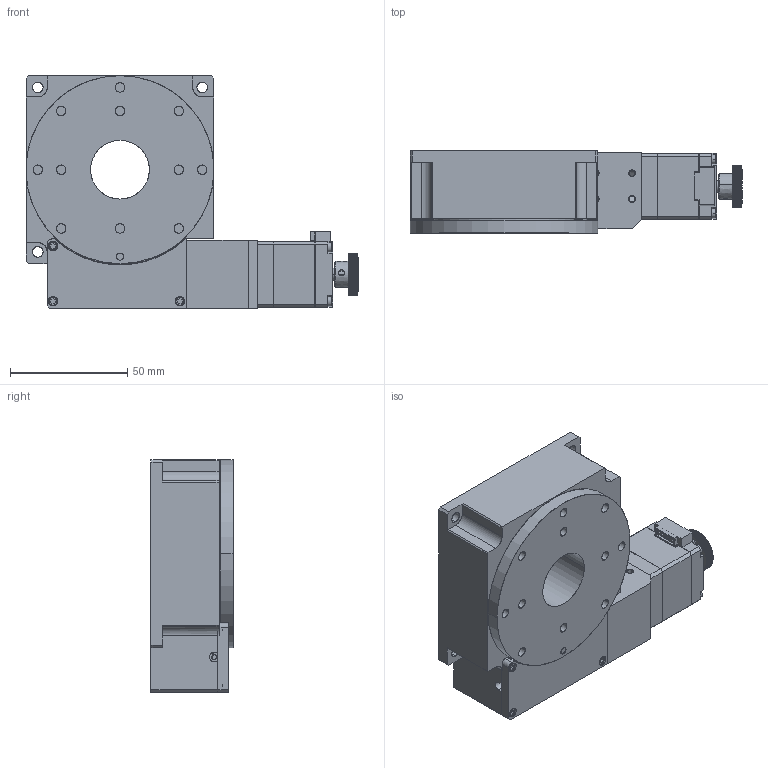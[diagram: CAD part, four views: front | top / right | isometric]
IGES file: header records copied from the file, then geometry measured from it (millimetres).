
Start section: SolidWorks IGES file using analytic representation for surfaces
Global section: file name: E:\0产品2d3d图纸-20180629\01PRAL\IGS\PRAL-80B-P5.IGS; native system: SolidWorks 2015; preprocessor: SolidWorks 2015; author: Administrator; date: 190121.094902; units: millimetre
Bounding box: 141.3 x 35 x 99 mm (x, y, z)
Surface area: 95466.2 mm2 (no closed solid volume)
Topology: 0 solids, 0 shells, 1793 faces, 23092 edges, 23082 vertices
Faces by surface type: bspline 1188, revolution 605
